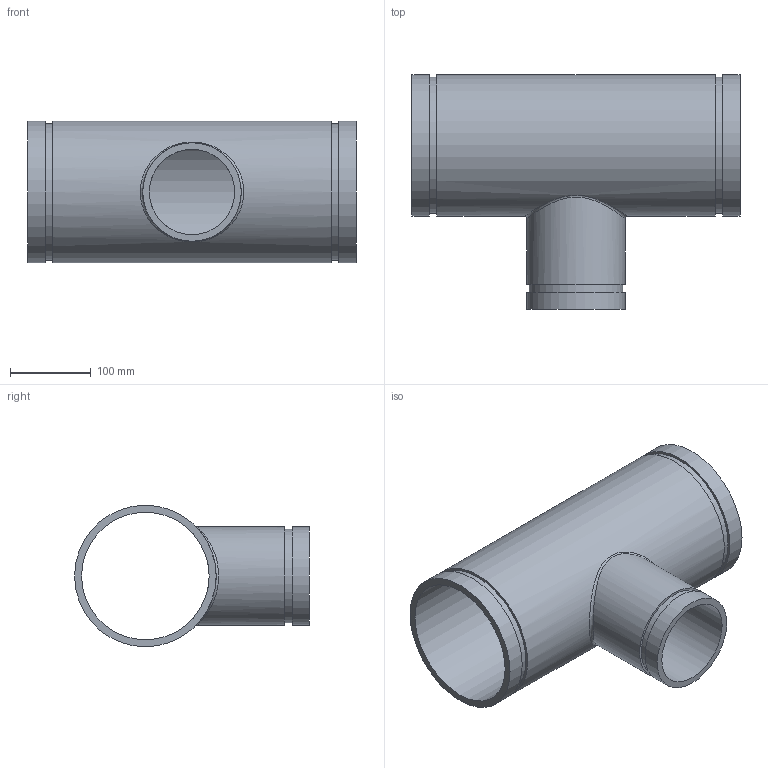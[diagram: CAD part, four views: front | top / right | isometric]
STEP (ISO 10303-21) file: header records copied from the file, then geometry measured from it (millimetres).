
FILE_DESCRIPTION(/* description */ ('VIC REDUCING TEE No 25-C','CAx-IF Rec.Pracs.---Representation and Presentation of Product Manufacturing Information (PMI)---4.0---2014-10-13'),/* implementation_level */ '2;1');
FILE_NAME(/* name */ 'C:\Users\Vjadhav\AppData\Roaming\Autodesk\ApplicationPlugins\Back Up\Victaulic_AWWA_Tee Reducing_No 25-C (DRG)\Victaulic_AWWA_Tee Reducing_No 25-C (DRG)_06.0x04.0 (150x100).stp',/* time_stamp */ '2020-08-18T18:17:41+06:00',/* author */ ('CORINNE GRAY'),/* organization */ ('Victaulic'),/* preprocessor_version */ 'ST-DEVELOPER v17.2',/* originating_system */ 'Autodesk Inventor 2019',/* authorisation */ '');
FILE_SCHEMA (('AP242_MANAGED_MODEL_BASED_3D_ENGINEERING_MIM_LF { 1 0 10303 442 1 1 4 }'));
Length unit declared in the file: inch
Products named in the file (1): 25C-06.0x04.0
Bounding box: 406.4 x 290.83 x 175.26 mm (x, y, z)
Volume: 2080184 mm3; surface area: 516914.8 mm2
Topology: 1 solids, 1 shells, 20 faces, 44 edges, 33 vertices
Faces by surface type: cylinder 10, plane 9, bspline 1
Full cylindrical faces by diameter (mm): 105.664 x1, 115.9 x1, 121.92 x2, 157.988 x1, 169.062 x2, 175.26 x3
Entity records: 1017 total; most frequent: CARTESIAN_POINT 393, DIRECTION 135, ORIENTED_EDGE 90, AXIS2_PLACEMENT_3D 62, EDGE_CURVE 45, VERTEX_POINT 34, EDGE_LOOP 31, CIRCLE 29
